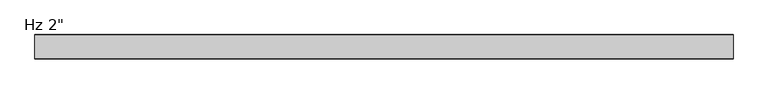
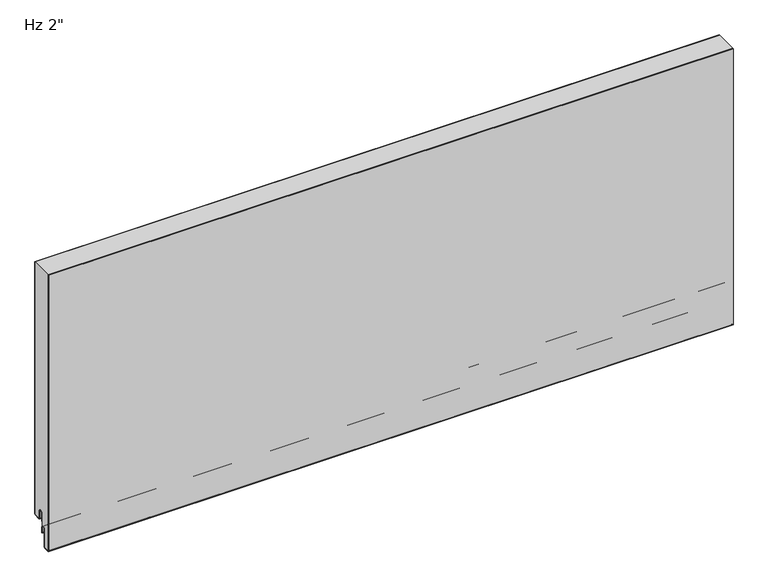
"""IFC4 building model written with IfcOpenShell, lengths in millimetres: plate geometry."""

from ifc_helpers import new_model, si_unit, point, frame, frame_2d, origin, place, context, project, spatial, polyline, circle_curve, trimmed, segment, composite_curve, outline, extrude, source, transform, mapped, element, save


def plate_89e84f46(model_context):
    return source(origin(), model_context, "Body", "SweptSolid", [
        extrude(outline(composite_curve([segment(polyline([(-49.8, -50.6719361), (-49.8, 571.2), (-1.0, 571.2), (-1.0, 3.175)]), True, "CONTINUOUS"), segment(trimmed(circle_curve(frame_2d((-2.38125, 3.175)), 1.38125), [point((-1.0, 3.175))], [point((-2.38125, 1.79375))], False, "CARTESIAN"), True, "CONTINUOUS"), segment(polyline([(-2.38125, 1.79375), (-15.08125, 1.79375)]), True, "CONTINUOUS"), segment(trimmed(circle_curve(frame_2d((-15.08125, 3.175)), 1.38125), [point((-15.08125, 1.79375))], [point((-16.4625, 3.175))], False, "CARTESIAN"), True, "CONTINUOUS"), segment(polyline([(-16.4625, 3.175), (-16.4625, 19.05)]), True, "CONTINUOUS"), segment(trimmed(circle_curve(frame_2d((-21.43125, 19.05)), 4.96875), [point((-16.4625, 19.05))], [point((-26.4, 19.05))], True, "CARTESIAN"), True, "CONTINUOUS"), segment(polyline([(-26.4, 19.05), (-26.4, -6.9375), (-30.95625, -6.9375)]), True, "CONTINUOUS"), segment(trimmed(circle_curve(frame_2d((-30.95625, -11.90625)), 4.96875), [point((-30.95625, -6.9375))], [point((-35.925, -11.90625))], True, "CARTESIAN"), True, "CONTINUOUS"), segment(polyline([(-35.925, -11.90625), (-35.925, -50.0895546)]), True, "CONTINUOUS"), segment(trimmed(circle_curve(frame_2d((-37.30625, -50.0895546)), 1.38125), [point((-35.925, -50.0895546))], [point((-37.233961, -51.4689117))], False, "CARTESIAN"), True, "CONTINUOUS"), segment(polyline([(-37.233961, -51.4689117), (-48.346461, -52.0512931)]), True, "CONTINUOUS"), segment(trimmed(circle_curve(frame_2d((-48.41875, -50.6719361)), 1.38125), [point((-48.346461, -52.0512931))], [point((-49.8, -50.6719361))], False, "CARTESIAN"), True, "CONTINUOUS")], self_intersect=False)), frame((-730.0, 0.0, 0.0), z_axis=(1.0, 0.0, 0.0), x_axis=(0.0, 1.0, 0.0)), (0.0, 0.0, 1.0), 1460.0),
        extrude(outline(composite_curve([segment(polyline([(-25.4, 0.79375), (-26.4, 0.79375), (-26.4, 19.05)]), True, "CONTINUOUS"), segment(trimmed(circle_curve(frame_2d((-21.43125, 19.05)), 4.96875), [point((-26.4, 19.05))], [point((-16.4625, 19.05))], False, "CARTESIAN"), True, "CONTINUOUS"), segment(polyline([(-16.4625, 19.05), (-16.4625, 3.175)]), True, "CONTINUOUS"), segment(trimmed(circle_curve(frame_2d((-15.08125, 3.175)), 1.38125), [point((-16.4625, 3.175))], [point((-15.08125, 1.79375))], True, "CARTESIAN"), True, "CONTINUOUS"), segment(polyline([(-15.08125, 1.79375), (-2.38125, 1.79375)]), True, "CONTINUOUS"), segment(trimmed(circle_curve(frame_2d((-2.38125, 3.175)), 1.38125), [point((-2.38125, 1.79375))], [point((-1.0, 3.175))], True, "CARTESIAN"), True, "CONTINUOUS"), segment(polyline([(-1.0, 3.175), (-1.0, 571.2), (0.0, 571.2), (0.0, 3.175)]), True, "CONTINUOUS"), segment(trimmed(circle_curve(frame_2d((-2.38125, 3.175)), 2.38125), [point((0.0, 3.175))], [point((-2.38125, 0.79375))], False, "CARTESIAN"), True, "CONTINUOUS"), segment(polyline([(-2.38125, 0.79375), (-15.08125, 0.79375)]), True, "CONTINUOUS"), segment(trimmed(circle_curve(frame_2d((-15.08125, 3.175)), 2.38125), [point((-15.08125, 0.79375))], [point((-17.4625, 3.175))], False, "CARTESIAN"), True, "CONTINUOUS"), segment(polyline([(-17.4625, 3.175), (-17.4625, 19.05)]), True, "CONTINUOUS"), segment(trimmed(circle_curve(frame_2d((-21.43125, 19.05)), 3.96875), [point((-17.4625, 19.05))], [point((-25.4, 19.05))], True, "CARTESIAN"), True, "CONTINUOUS"), segment(polyline([(-25.4, 19.05), (-25.4, 0.79375)]), True, "CONTINUOUS")], self_intersect=False)), frame((-730.0, 0.0, 0.0), z_axis=(1.0, 0.0, 0.0), x_axis=(0.0, 1.0, 0.0)), (0.0, 0.0, 1.0), 1460.0),
        extrude(outline(composite_curve([segment(trimmed(circle_curve(frame_2d((-26.19375, -23.2314549)), 0.79375), [point((-25.4, -23.2314549))], [point((-26.9875, -23.2314549))], False, "CARTESIAN"), True, "CONTINUOUS"), segment(polyline([(-26.9875, -23.2314549), (-26.9875, -11.9205174)]), True, "CONTINUOUS"), segment(trimmed(circle_curve(frame_2d((-30.95625, -11.9205174)), 3.96875), [point((-26.9875, -11.9205174))], [point((-34.925, -11.9205174))], True, "CARTESIAN"), True, "CONTINUOUS"), segment(polyline([(-34.925, -11.9205174), (-34.925, -50.1038221)]), True, "CONTINUOUS"), segment(trimmed(circle_curve(frame_2d((-37.30625, -50.1038221)), 2.38125), [point((-34.925, -50.1038221))], [point((-37.181625, -52.4818086))], False, "CARTESIAN"), True, "CONTINUOUS"), segment(polyline([(-37.181625, -52.4818086), (-48.294125, -53.0641901)]), True, "CONTINUOUS"), segment(trimmed(circle_curve(frame_2d((-48.41875, -50.6862035)), 2.38125), [point((-48.294125, -53.0641901))], [point((-50.8, -50.6862035))], False, "CARTESIAN"), True, "CONTINUOUS"), segment(polyline([(-50.8, -50.6862035), (-50.8, 571.2), (-49.8, 571.2), (-49.8, -50.6862035)]), True, "CONTINUOUS"), segment(trimmed(circle_curve(frame_2d((-48.41875, -50.6862035)), 1.38125), [point((-49.8, -50.6862035))], [point((-48.346461, -52.0655606))], True, "CARTESIAN"), True, "CONTINUOUS"), segment(polyline([(-48.346461, -52.0655606), (-37.233961, -51.4831791)]), True, "CONTINUOUS"), segment(trimmed(circle_curve(frame_2d((-37.30625, -50.1038221)), 1.38125), [point((-37.233961, -51.4831791))], [point((-35.925, -50.1038221))], True, "CARTESIAN"), True, "CONTINUOUS"), segment(polyline([(-35.925, -50.1038221), (-35.925, -11.9205174)]), True, "CONTINUOUS"), segment(trimmed(circle_curve(frame_2d((-30.95625, -11.9205174)), 4.96875), [point((-35.925, -11.9205174))], [point((-25.9875, -11.9205174))], False, "CARTESIAN"), True, "CONTINUOUS"), segment(polyline([(-25.9875, -11.9205174), (-26.19375, -13.5080174), (-25.4, -13.5080174), (-25.4, -23.2314549)]), True, "CONTINUOUS")], self_intersect=False)), frame((-730.0, 0.0, 0.0), z_axis=(1.0, 0.0, 0.0), x_axis=(0.0, 1.0, 0.0)), (0.0, 0.0, 1.0), 1460.0),
    ])


if __name__ == "__main__":
    model = new_model("IFC4")
    model_context = context("Model", 3, world=origin())
    ifc_project = project(units=[si_unit("LENGTHUNIT", "METRE", prefix="MILLI")], contexts=[model_context])
    site = spatial("IfcSite", under=ifc_project)
    building = spatial("IfcBuilding", under=site)
    placement = place(None, origin())
    plate_shape = plate_89e84f46(model_context)
    element("IfcPlate", 1, ObjectType="KIP-36-DWHR-R19-CP-Hz-F : Hz 2\"", at=placement, inside=building, context=model_context, shape_type="MappedRepresentation", body=[
        mapped(plate_shape, transform((0.0, 0.0, 0.0), x_axis=(1.0, 0.0, 0.0), y_axis=(0.0, 1.0, 0.0), z_axis=(0.0, 0.0, 1.0))),
    ])
    save(model, "model.ifc")
